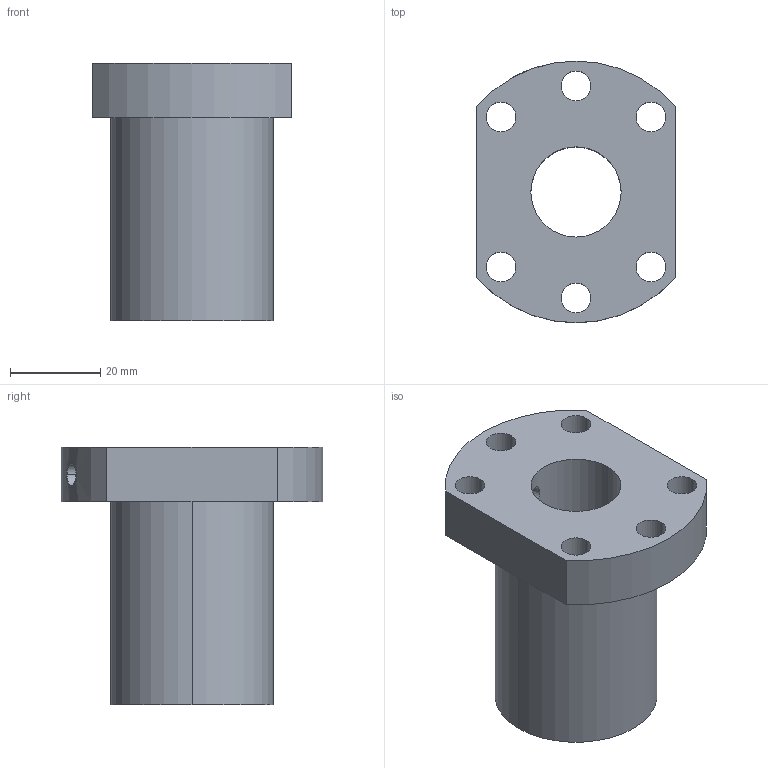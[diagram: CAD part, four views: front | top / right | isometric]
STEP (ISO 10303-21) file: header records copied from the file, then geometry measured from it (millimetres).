
FILE_DESCRIPTION((''),'2;1');
FILE_NAME('A10WHGA1','2018-09-04T',('wayne16941.lin'),(''),'PRO/ENGINEER BY PARAMETRIC TECHNOLOGY CORPORATION, 2012200','PRO/ENGINEER BY PARAMETRIC TECHNOLOGY CORPORATION, 2012200','');
FILE_SCHEMA(('CONFIG_CONTROL_DESIGN'));
Length unit declared in the file: millimetre
Products named in the file (1): A10WHGA1
Bounding box: 44 x 58 x 57 mm (x, y, z)
Volume: 52427.3 mm3; surface area: 16206.5 mm2
Topology: 1 solids, 2 shells, 32 faces, 84 edges, 56 vertices
Faces by surface type: cylinder 24, plane 6, cone 2
Entity records: 1170 total; most frequent: CARTESIAN_POINT 273, DIRECTION 186, ORIENTED_EDGE 162, EDGE_CURVE 84, AXIS2_PLACEMENT_3D 77, VERTEX_POINT 56, EDGE_LOOP 50, CIRCLE 44
